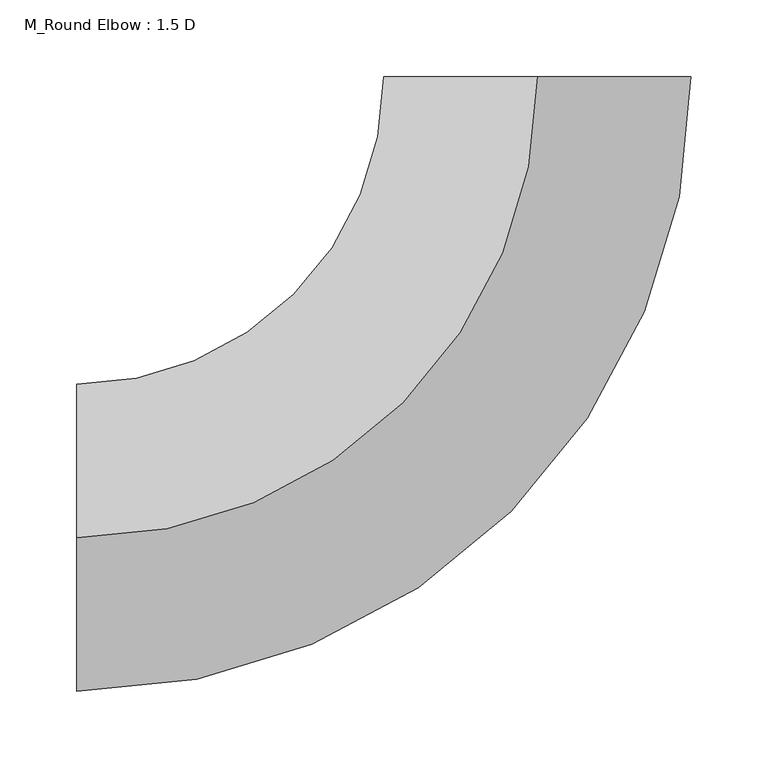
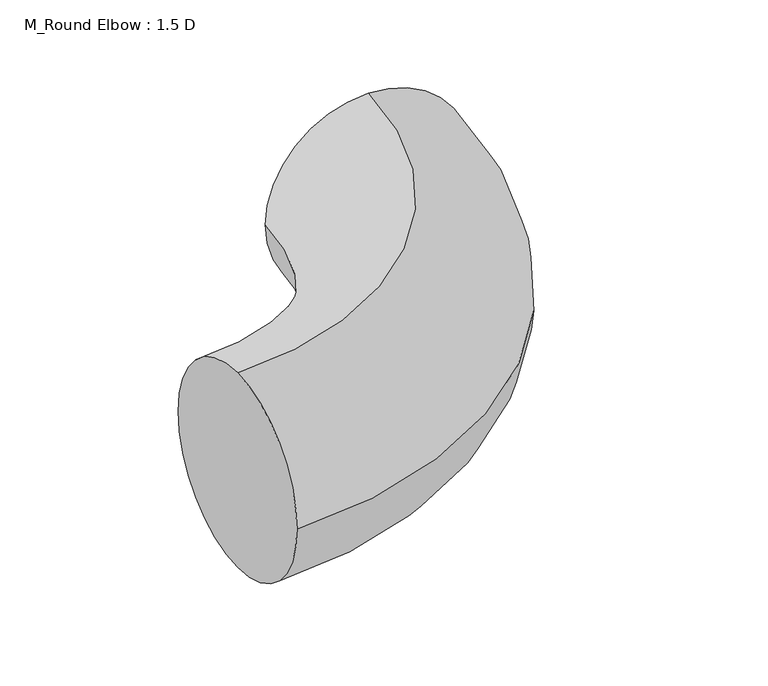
"""IFC4 building model written with IfcOpenShell, lengths in millimetres: duct fitting geometry, M_Round Elbow : 1.5 D."""

from ifc_helpers import new_model, si_unit, point, frame, origin, place, context, project, spatial, circle_curve, ellipse_curve, trimmed, source, transform, mapped, element, save
from ifc_brep_helpers import plane_surface, revolved_surface, advanced_brep


def m_round_elbow_1_5_d_36e34a82(model_context):
    return source(origin(), model_context, "Body", "AdvancedBrep", [
        advanced_brep(
        [(-300.1945805, 0.0, 100.0), (-300.1945805, 100.0, 0.0), (-300.1945805, 0.0, -100.0), (-300.1945805, -100.0, 0.0), (-0.1946436, 300.1945174, 100.0), (99.8053354, 300.2593566, 0.0), (-0.1946436, 300.1945174, -100.0), (-100.1946226, 300.1296783, 0.0)],
        [
            (0, 1, circle_curve(frame((-300.1945805, 0.0, 0.0), z_axis=(-1.0, 0.0, 0.0), x_axis=(0.0, 1.0, 0.0)), 100.0)),
            (1, 2, circle_curve(frame((-300.1945805, 0.0, 0.0), z_axis=(-1.0, 0.0, 0.0), x_axis=(0.0, 1.0, 0.0)), 100.0)),
            (2, 3, circle_curve(frame((-300.1945805, 0.0, 0.0), z_axis=(-1.0, 0.0, 0.0), x_axis=(0.0, 1.0, 0.0)), 100.0)),
            (3, 0, circle_curve(frame((-300.1945805, 0.0, 0.0), z_axis=(-1.0, 0.0, 0.0), x_axis=(0.0, 1.0, 0.0)), 100.0)),
            (4, 5, circle_curve(frame((-0.1946436, 300.1945174, 0.0), z_axis=(-0.0006483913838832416, 0.9999997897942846, 0.0), x_axis=(-0.9999997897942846, -0.0006483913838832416, 0.0)), 100.0)),
            (5, 6, circle_curve(frame((-0.1946436, 300.1945174, 0.0), z_axis=(-0.0006483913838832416, 0.9999997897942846, 0.0), x_axis=(-0.9999997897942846, -0.0006483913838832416, 0.0)), 100.0)),
            (6, 7, circle_curve(frame((-0.1946436, 300.1945174, 0.0), z_axis=(-0.0006483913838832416, 0.9999997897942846, 0.0), x_axis=(-0.9999997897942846, -0.0006483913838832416, 0.0)), 100.0)),
            (7, 4, circle_curve(frame((-0.1946436, 300.1945174, 0.0), z_axis=(-0.0006483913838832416, 0.9999997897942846, 0.0), x_axis=(-0.9999997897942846, -0.0006483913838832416, 0.0)), 100.0)),
            (7, 1, circle_curve(frame((-300.1945805, 300.0, 0.0), z_axis=(0.0, 0.0, -1.0), x_axis=(0.0, -1.0, 0.0)), 200.0)),
            (0, 4, circle_curve(frame((-300.1945805, 300.0, 100.0), z_axis=(0.0, 0.0, 1.0), x_axis=(0.0, -1.0, 0.0)), 300.0)),
            (6, 2, circle_curve(frame((-300.1945805, 300.0, -100.0), z_axis=(0.0, 0.0, -1.0), x_axis=(0.0, -1.0, 0.0)), 300.0)),
            (5, 3, circle_curve(frame((-300.1945805, 300.0, 0.0), z_axis=(0.0, 0.0, -1.0), x_axis=(0.0, -1.0, 0.0)), 400.0)),
        ],
        [
            plane_surface(frame((-300.1945805, 0.0, 0.0), z_axis=(-1.0, 0.0, 0.0), x_axis=(0.0, 0.0, 1.0))),
            plane_surface(frame((-0.1946436, 300.1945174, 0.0), z_axis=(-0.0006483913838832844, 0.9999997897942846, 0.0), x_axis=(0.0, 0.0, 1.0))),
            revolved_surface(trimmed(ellipse_curve(frame((-300.1945805, 0.0, 0.0), z_axis=(-1.0, 0.0, 0.0), x_axis=(0.0, 1.0, 0.0)), 100.0, 100.0), [point((-300.1945805, 0.0, 100.0))], [point((-300.1945805, 100.0, 0.0))], True, "CARTESIAN"), (-300.1945805, 300.0, 0.0), (0.0, 0.0, 1.0)),
            revolved_surface(trimmed(ellipse_curve(frame((-300.1945805, 0.0, 0.0), z_axis=(-1.0, 0.0, 0.0), x_axis=(0.0, 1.0, 0.0)), 100.0, 100.0), [point((-300.1945805, 100.0, 0.0))], [point((-300.1945805, 0.0, -100.0))], True, "CARTESIAN"), (-300.1945805, 300.0, 0.0), (0.0, 0.0, 1.0)),
            revolved_surface(trimmed(ellipse_curve(frame((-300.1945805, 0.0, 0.0), z_axis=(-1.0, 0.0, 0.0), x_axis=(0.0, 1.0, 0.0)), 100.0, 100.0), [point((-300.1945805, 0.0, -100.0))], [point((-300.1945805, -100.0, 0.0))], True, "CARTESIAN"), (-300.1945805, 300.0, 0.0), (0.0, 0.0, 1.0)),
            revolved_surface(trimmed(ellipse_curve(frame((-300.1945805, 0.0, 0.0), z_axis=(-1.0, 0.0, 0.0), x_axis=(0.0, 1.0, 0.0)), 100.0, 100.0), [point((-300.1945805, -100.0, 0.0))], [point((-300.1945805, 0.0, 100.0))], True, "CARTESIAN"), (-300.1945805, 300.0, 0.0), (0.0, 0.0, 1.0)),
        ],
        [
            (0, [[1, 2, 3, 4]]),
            (1, [[5, 6, 7, 8]]),
            (2, [[9, -1, 10, -8]]),
            (3, [[11, -2, -9, -7]]),
            (4, [[12, -3, -11, -6]]),
            (5, [[-10, -4, -12, -5]]),
        ],
    ),
        advanced_brep(
        [(-300.1945805, 0.0, 100.0), (-300.1945805, 100.0, 0.0), (-300.1945805, 0.0, -100.0), (-300.1945805, -100.0, 0.0), (-0.1946436, 300.1945174, 100.0), (99.8053354, 300.2593566, 0.0), (-0.1946436, 300.1945174, -100.0), (-100.1946226, 300.1296783, 0.0)],
        [
            (0, 1, circle_curve(frame((-300.1945805, 0.0, 0.0), z_axis=(-1.0, 0.0, 0.0), x_axis=(0.0, 1.0, 0.0)), 100.0)),
            (1, 2, circle_curve(frame((-300.1945805, 0.0, 0.0), z_axis=(-1.0, 0.0, 0.0), x_axis=(0.0, 1.0, 0.0)), 100.0)),
            (2, 3, circle_curve(frame((-300.1945805, 0.0, 0.0), z_axis=(-1.0, 0.0, 0.0), x_axis=(0.0, 1.0, 0.0)), 100.0)),
            (3, 0, circle_curve(frame((-300.1945805, 0.0, 0.0), z_axis=(-1.0, 0.0, 0.0), x_axis=(0.0, 1.0, 0.0)), 100.0)),
            (4, 5, circle_curve(frame((-0.1946436, 300.1945174, 0.0), z_axis=(-0.0006483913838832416, 0.9999997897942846, 0.0), x_axis=(-0.9999997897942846, -0.0006483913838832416, 0.0)), 100.0)),
            (5, 6, circle_curve(frame((-0.1946436, 300.1945174, 0.0), z_axis=(-0.0006483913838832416, 0.9999997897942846, 0.0), x_axis=(-0.9999997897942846, -0.0006483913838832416, 0.0)), 100.0)),
            (6, 7, circle_curve(frame((-0.1946436, 300.1945174, 0.0), z_axis=(-0.0006483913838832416, 0.9999997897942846, 0.0), x_axis=(-0.9999997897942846, -0.0006483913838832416, 0.0)), 100.0)),
            (7, 4, circle_curve(frame((-0.1946436, 300.1945174, 0.0), z_axis=(-0.0006483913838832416, 0.9999997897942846, 0.0), x_axis=(-0.9999997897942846, -0.0006483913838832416, 0.0)), 100.0)),
            (7, 1, circle_curve(frame((-300.1945805, 300.0, 0.0), z_axis=(0.0, 0.0, -1.0), x_axis=(0.0, -1.0, 0.0)), 200.0)),
            (0, 4, circle_curve(frame((-300.1945805, 300.0, 100.0), z_axis=(0.0, 0.0, 1.0), x_axis=(0.0, -1.0, 0.0)), 300.0)),
            (6, 2, circle_curve(frame((-300.1945805, 300.0, -100.0), z_axis=(0.0, 0.0, -1.0), x_axis=(0.0, -1.0, 0.0)), 300.0)),
            (5, 3, circle_curve(frame((-300.1945805, 300.0, 0.0), z_axis=(0.0, 0.0, -1.0), x_axis=(0.0, -1.0, 0.0)), 400.0)),
        ],
        [
            plane_surface(frame((-300.1945805, 0.0, 0.0), z_axis=(-1.0, 0.0, 0.0), x_axis=(0.0, 0.0, 1.0))),
            plane_surface(frame((-0.1946436, 300.1945174, 0.0), z_axis=(-0.0006483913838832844, 0.9999997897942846, 0.0), x_axis=(0.0, 0.0, 1.0))),
            revolved_surface(trimmed(ellipse_curve(frame((-300.1945805, 0.0, 0.0), z_axis=(-1.0, 0.0, 0.0), x_axis=(0.0, 1.0, 0.0)), 100.0, 100.0), [point((-300.1945805, 0.0, 100.0))], [point((-300.1945805, 100.0, 0.0))], True, "CARTESIAN"), (-300.1945805, 300.0, 0.0), (0.0, 0.0, 1.0)),
            revolved_surface(trimmed(ellipse_curve(frame((-300.1945805, 0.0, 0.0), z_axis=(-1.0, 0.0, 0.0), x_axis=(0.0, 1.0, 0.0)), 100.0, 100.0), [point((-300.1945805, 100.0, 0.0))], [point((-300.1945805, 0.0, -100.0))], True, "CARTESIAN"), (-300.1945805, 300.0, 0.0), (0.0, 0.0, 1.0)),
            revolved_surface(trimmed(ellipse_curve(frame((-300.1945805, 0.0, 0.0), z_axis=(-1.0, 0.0, 0.0), x_axis=(0.0, 1.0, 0.0)), 100.0, 100.0), [point((-300.1945805, 0.0, -100.0))], [point((-300.1945805, -100.0, 0.0))], True, "CARTESIAN"), (-300.1945805, 300.0, 0.0), (0.0, 0.0, 1.0)),
            revolved_surface(trimmed(ellipse_curve(frame((-300.1945805, 0.0, 0.0), z_axis=(-1.0, 0.0, 0.0), x_axis=(0.0, 1.0, 0.0)), 100.0, 100.0), [point((-300.1945805, -100.0, 0.0))], [point((-300.1945805, 0.0, 100.0))], True, "CARTESIAN"), (-300.1945805, 300.0, 0.0), (0.0, 0.0, 1.0)),
        ],
        [
            (0, [[1, 2, 3, 4]]),
            (1, [[5, 6, 7, 8]]),
            (2, [[9, -1, 10, -8]]),
            (3, [[11, -2, -9, -7]]),
            (4, [[12, -3, -11, -6]]),
            (5, [[-10, -4, -12, -5]]),
        ],
    ),
        advanced_brep(
        [(-300.1945805, 0.0, 100.0), (-300.1945805, 100.0, 0.0), (-300.1945805, 0.0, -100.0), (-300.1945805, -100.0, 0.0), (-0.1946436, 300.1945174, 100.0), (99.8053354, 300.2593566, 0.0), (-0.1946436, 300.1945174, -100.0), (-100.1946226, 300.1296783, 0.0)],
        [
            (0, 1, circle_curve(frame((-300.1945805, 0.0, 0.0), z_axis=(-1.0, 0.0, 0.0), x_axis=(0.0, 1.0, 0.0)), 100.0)),
            (1, 2, circle_curve(frame((-300.1945805, 0.0, 0.0), z_axis=(-1.0, 0.0, 0.0), x_axis=(0.0, 1.0, 0.0)), 100.0)),
            (2, 3, circle_curve(frame((-300.1945805, 0.0, 0.0), z_axis=(-1.0, 0.0, 0.0), x_axis=(0.0, 1.0, 0.0)), 100.0)),
            (3, 0, circle_curve(frame((-300.1945805, 0.0, 0.0), z_axis=(-1.0, 0.0, 0.0), x_axis=(0.0, 1.0, 0.0)), 100.0)),
            (4, 5, circle_curve(frame((-0.1946436, 300.1945174, 0.0), z_axis=(-0.0006483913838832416, 0.9999997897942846, 0.0), x_axis=(-0.9999997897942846, -0.0006483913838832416, 0.0)), 100.0)),
            (5, 6, circle_curve(frame((-0.1946436, 300.1945174, 0.0), z_axis=(-0.0006483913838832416, 0.9999997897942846, 0.0), x_axis=(-0.9999997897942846, -0.0006483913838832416, 0.0)), 100.0)),
            (6, 7, circle_curve(frame((-0.1946436, 300.1945174, 0.0), z_axis=(-0.0006483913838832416, 0.9999997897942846, 0.0), x_axis=(-0.9999997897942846, -0.0006483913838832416, 0.0)), 100.0)),
            (7, 4, circle_curve(frame((-0.1946436, 300.1945174, 0.0), z_axis=(-0.0006483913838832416, 0.9999997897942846, 0.0), x_axis=(-0.9999997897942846, -0.0006483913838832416, 0.0)), 100.0)),
            (7, 1, circle_curve(frame((-300.1945805, 300.0, 0.0), z_axis=(0.0, 0.0, -1.0), x_axis=(0.0, -1.0, 0.0)), 200.0)),
            (0, 4, circle_curve(frame((-300.1945805, 300.0, 100.0), z_axis=(0.0, 0.0, 1.0), x_axis=(0.0, -1.0, 0.0)), 300.0)),
            (6, 2, circle_curve(frame((-300.1945805, 300.0, -100.0), z_axis=(0.0, 0.0, -1.0), x_axis=(0.0, -1.0, 0.0)), 300.0)),
            (5, 3, circle_curve(frame((-300.1945805, 300.0, 0.0), z_axis=(0.0, 0.0, -1.0), x_axis=(0.0, -1.0, 0.0)), 400.0)),
        ],
        [
            plane_surface(frame((-300.1945805, 0.0, 0.0), z_axis=(-1.0, 0.0, 0.0), x_axis=(0.0, 0.0, 1.0))),
            plane_surface(frame((-0.1946436, 300.1945174, 0.0), z_axis=(-0.0006483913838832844, 0.9999997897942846, 0.0), x_axis=(0.0, 0.0, 1.0))),
            revolved_surface(trimmed(ellipse_curve(frame((-300.1945805, 0.0, 0.0), z_axis=(-1.0, 0.0, 0.0), x_axis=(0.0, 1.0, 0.0)), 100.0, 100.0), [point((-300.1945805, 0.0, 100.0))], [point((-300.1945805, 100.0, 0.0))], True, "CARTESIAN"), (-300.1945805, 300.0, 0.0), (0.0, 0.0, 1.0)),
            revolved_surface(trimmed(ellipse_curve(frame((-300.1945805, 0.0, 0.0), z_axis=(-1.0, 0.0, 0.0), x_axis=(0.0, 1.0, 0.0)), 100.0, 100.0), [point((-300.1945805, 100.0, 0.0))], [point((-300.1945805, 0.0, -100.0))], True, "CARTESIAN"), (-300.1945805, 300.0, 0.0), (0.0, 0.0, 1.0)),
            revolved_surface(trimmed(ellipse_curve(frame((-300.1945805, 0.0, 0.0), z_axis=(-1.0, 0.0, 0.0), x_axis=(0.0, 1.0, 0.0)), 100.0, 100.0), [point((-300.1945805, 0.0, -100.0))], [point((-300.1945805, -100.0, 0.0))], True, "CARTESIAN"), (-300.1945805, 300.0, 0.0), (0.0, 0.0, 1.0)),
            revolved_surface(trimmed(ellipse_curve(frame((-300.1945805, 0.0, 0.0), z_axis=(-1.0, 0.0, 0.0), x_axis=(0.0, 1.0, 0.0)), 100.0, 100.0), [point((-300.1945805, -100.0, 0.0))], [point((-300.1945805, 0.0, 100.0))], True, "CARTESIAN"), (-300.1945805, 300.0, 0.0), (0.0, 0.0, 1.0)),
        ],
        [
            (0, [[1, 2, 3, 4]]),
            (1, [[5, 6, 7, 8]]),
            (2, [[9, -1, 10, -8]]),
            (3, [[11, -2, -9, -7]]),
            (4, [[12, -3, -11, -6]]),
            (5, [[-10, -4, -12, -5]]),
        ],
    ),
    ])


if __name__ == "__main__":
    model = new_model("IFC4")
    model_context = context("Model", 3, world=origin())
    ifc_project = project(units=[si_unit("LENGTHUNIT", "METRE", prefix="MILLI")], contexts=[model_context])
    site = spatial("IfcSite", under=ifc_project)
    building = spatial("IfcBuilding", under=site)
    placement = place(None, origin())
    m_round_elbow_1_5_d_shape = m_round_elbow_1_5_d_36e34a82(model_context)
    element("IfcDuctFitting", 1, ObjectType="M_Round Elbow : 1.5 D", at=placement, inside=building, context=model_context, shape_type="MappedRepresentation", body=[
        mapped(m_round_elbow_1_5_d_shape, transform((0.0, 0.0, 0.0), x_axis=(1.0, 0.0, 0.0), y_axis=(0.0, 1.0, 0.0), z_axis=(0.0, 0.0, 1.0))),
    ])
    save(model, "model.ifc")
